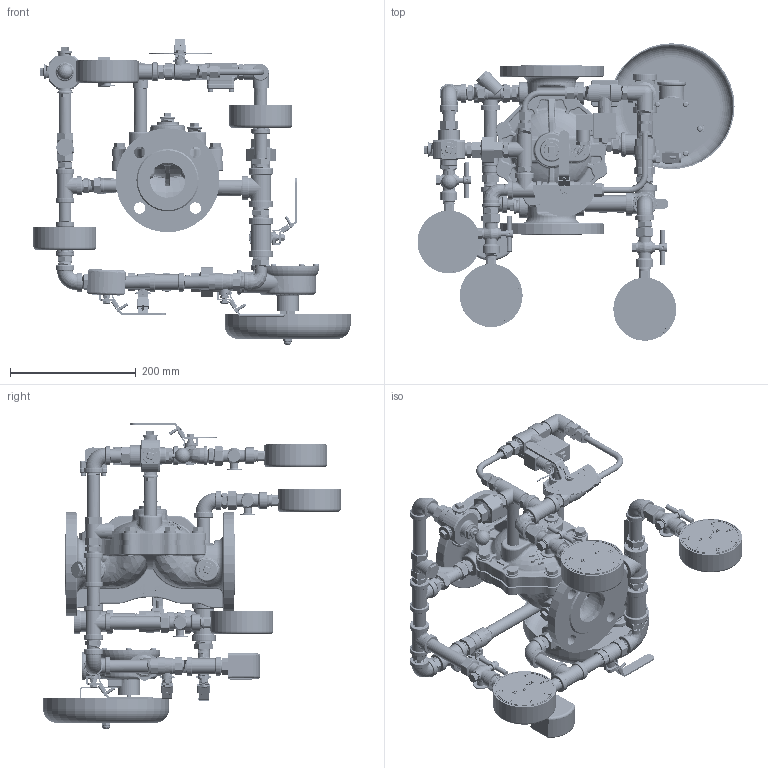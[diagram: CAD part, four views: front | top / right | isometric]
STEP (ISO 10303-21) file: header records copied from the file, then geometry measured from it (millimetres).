
FILE_DESCRIPTION((''),'2;1');
FILE_NAME('500001_ASM','2024-07-05T16:03:20',('administrator'),(''),'CREO PARAMETRIC BY PTC INC, 2021404','CREO PARAMETRIC BY PTC INC, 2021404','');
FILE_SCHEMA(('CONFIG_CONTROL_DESIGN'));
Products named in the file (49): CA-DN500001; DN50-000; DN5000; M1000; G9000; _0001; 0001; 0002; __10002; _1-SOLID1_10001; _1-SOLID1_10002; __10003; _1-SOLID1_10003; _1-SOLID1_10004; __10001_ASM; _0002_ASM; 0003; 0004; G6000; T0001; G10000; 0005; G5000; 0006; 0007; 0008; 0009; 0010; 0011; 0012; 0013; 00; 001; 0016; 0017; 0018; 0019; G8000; G15000; 0020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
Assembly tree (114 placements, depth 4):
  500001_ASM
    CA-DN500001
    DN50-000
    DN5000
    M1000  x8
    M1000  x8
    G9000
    _0001
    0001  x15
    0002  x3
    _0002_ASM
      __10001_ASM
        __10002
        _1-SOLID1_10001
        _1-SOLID1_10002
        __10003
        _1-SOLID1_10003
        _1-SOLID1_10004
    0003  x6
    0004  x5
    G6000  x5
    T0001
    G10000  x4
    0005
    G5000
    0006  x3
    G9000
    0007  x2
    0008  x3
    0009  x2
    0010
    0011
    G6000
    0012
    0013
    00  x4
    001  x2
    0016
    0017
    0018
    0019  x2
    G8000  x2
    G15000
    0020
    0021
    1000001  x3
    10001  x7
    L650001
    L650002
Bounding box: 503.5 x 472.91 x 486.64 mm (x, y, z)
Volume: 4434703.1 mm3; surface area: 1475754.7 mm2
Topology: 116 solids, 131 shells, 13086 faces, 34268 edges, 21911 vertices
Faces by surface type: plane 5143, cylinder 2927, bspline 1738, cone 1618, torus 835, extrusion 639, sphere 175, revolution 11
Entity records: 404962 total; most frequent: CARTESIAN_POINT 205550, ORIENTED_EDGE 44130, DIRECTION 36635, EDGE_CURVE 22067, VERTEX_POINT 14063, VECTOR 12576, LINE 12155, AXIS2_PLACEMENT_3D 12024
